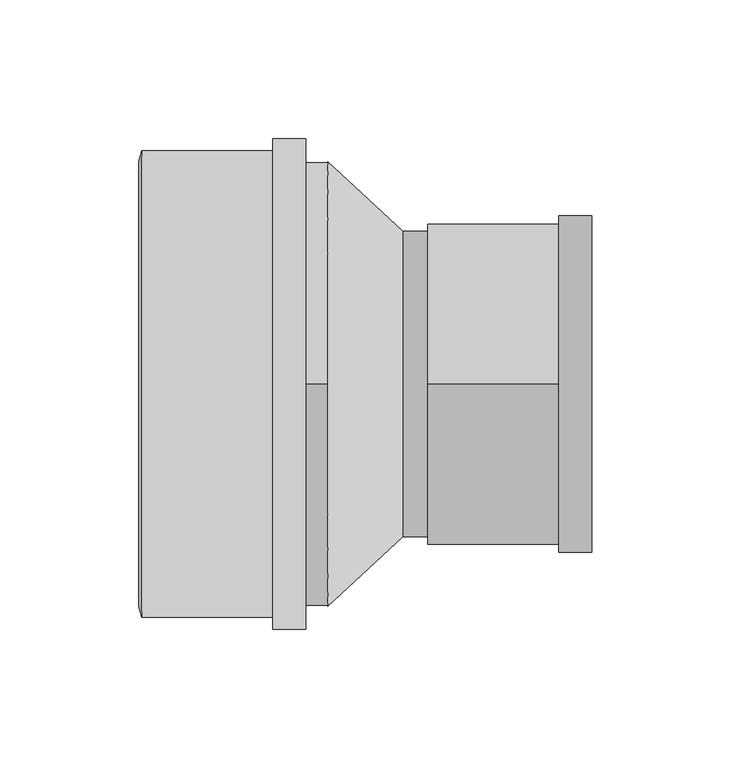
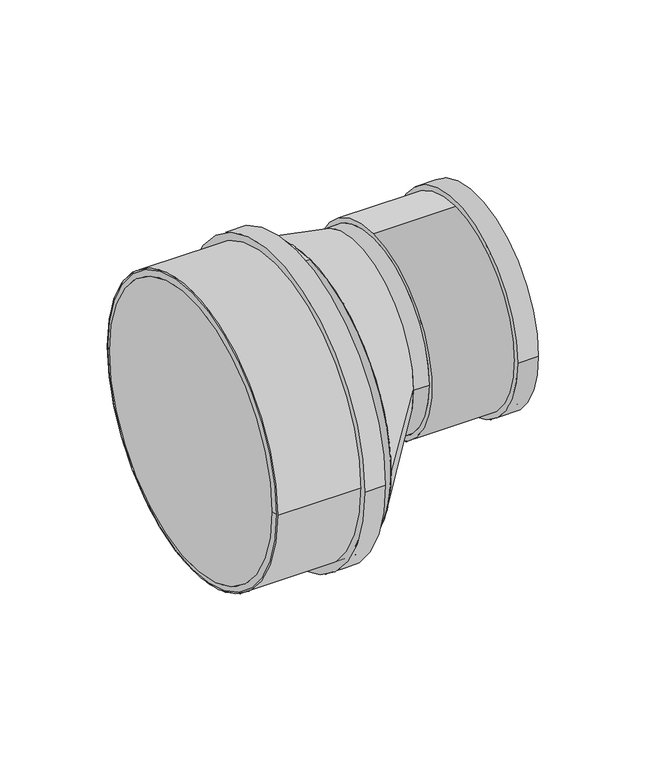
"""IFC4 building model written with IfcOpenShell, lengths in millimetres: pipe fitting geometry, Superdrain SKR-Reducer : Superdrain SKR-Reducer."""

from ifc_helpers import new_model, si_unit, point, frame, frame_2d, origin, origin_2d, place, context, project, spatial, polyline, circle_curve, trimmed, segment, composite_curve, outline, extrude, source, transform, mapped, element, save
from ifc_brep_helpers import plane_surface, revolved_surface, spline_surface, advanced_brep


def pipe_fitting_2cb091bc(model_context):
    return source(origin(), model_context, "Body", "SolidModel", [
        extrude(outline(composite_curve([segment(trimmed(circle_curve(frame_2d((0.0, 0.1450234)), 84.0), [point((84.0, 0.1450234))], [point((-84.0, 0.1450234))], False, "CARTESIAN"), True, "CONTINUOUS"), segment(trimmed(circle_curve(frame_2d((0.0, 0.1450234)), 84.0), [point((-84.0, 0.1450234))], [point((84.0, 0.1450234))], False, "CARTESIAN"), True, "CONTINUOUS")], self_intersect=False), holes=[composite_curve([segment(trimmed(circle_curve(frame_2d((0.0, 0.1450234)), 80.0), [point((80.0, 0.1450234))], [point((-80.0, 0.1450234))], True, "CARTESIAN"), True, "CONTINUOUS"), segment(trimmed(circle_curve(frame_2d((0.0, 0.1450234)), 80.0), [point((-80.0, 0.1450234))], [point((80.0, 0.1450234))], True, "CARTESIAN"), True, "CONTINUOUS")], self_intersect=False)]), frame((-67.0, 0.0, 0.0), z_axis=(1.0, 0.0, 0.0), x_axis=(0.0, 1.0, 0.0)), (0.0, 0.0, 1.0), 59.0),
        extrude(outline(composite_curve([segment(trimmed(circle_curve(frame_2d((0.0, 0.1450234)), 88.2), [point((88.2, 0.1450234))], [point((-88.2, 0.1450234))], False, "CARTESIAN"), True, "CONTINUOUS"), segment(trimmed(circle_curve(frame_2d((0.0, 0.1450234)), 88.2), [point((-88.2, 0.1450234))], [point((88.2, 0.1450234))], False, "CARTESIAN"), True, "CONTINUOUS")], self_intersect=False), holes=[composite_curve([segment(trimmed(circle_curve(frame_2d((0.0, 0.1450234)), 80.0), [point((80.0, 0.1450234))], [point((-80.0, 0.1450234))], True, "CARTESIAN"), True, "CONTINUOUS"), segment(trimmed(circle_curve(frame_2d((0.0, 0.1450234)), 80.0), [point((-80.0, 0.1450234))], [point((80.0, 0.1450234))], True, "CARTESIAN"), True, "CONTINUOUS")], self_intersect=False)]), frame((-19.8, 0.0, 0.0), z_axis=(1.0, 0.0, 0.0), x_axis=(0.0, 1.0, 0.0)), (0.0, 0.0, 1.0), 11.8),
        advanced_brep(
        [(-68.0, 80.0, 0.1450234), (-68.0, -80.0, 0.1450234), (-67.0, 84.0, 0.1450234), (-67.0, -84.0, 0.1450234)],
        [
            (0, 1, circle_curve(frame((-68.0, 0.0, 0.1450234), z_axis=(-1.0, 0.0, 0.0), x_axis=(0.0, 1.0, 0.0)), 80.0)),
            (1, 0, circle_curve(frame((-68.0, 0.0, 0.1450234), z_axis=(-1.0, 0.0, 0.0), x_axis=(0.0, -1.0, 0.0)), 80.0)),
            (2, 3, circle_curve(frame((-67.0, 0.0, 0.1450234), z_axis=(1.0, 0.0, 0.0), x_axis=(0.0, -1.0, 0.0)), 84.0)),
            (3, 2, circle_curve(frame((-67.0, 0.0, 0.1450234), z_axis=(1.0, 0.0, 0.0), x_axis=(0.0, 1.0, 0.0)), 84.0)),
            (3, 1),
            (0, 2),
        ],
        [
            plane_surface(frame((-68.0, 0.0, 0.1450234), z_axis=(-1.0, 0.0, 0.0), x_axis=(0.0, 0.0, -1.0))),
            plane_surface(frame((-67.0, 0.0, 0.1450234), z_axis=(1.0, 0.0, 0.0), x_axis=(0.0, 0.0, -1.0))),
            revolved_surface(polyline([(-68.0, 80.0, 0.1450234), (-67.0, 84.0, 0.1450234)]), (-88.0, 0.0, 0.1450234), (1.0, 0.0, 0.0)),
            revolved_surface(polyline([(-68.0, -80.0, 0.1450234), (-67.0, -84.0, 0.1450234)]), (-88.0, 0.0, 0.1450234), (1.0, 0.0, 0.0)),
        ],
        [
            (0, [[1, 2]]),
            (1, [[3, 4]]),
            (2, [[-4, 5, -1, 6]]),
            (3, [[-3, -6, -2, -5]]),
        ],
    ),
        advanced_brep(
        [(27.0, -55.0, 25.0), (27.0, 55.0, 25.0), (0.0, -80.0, 0.0), (0.0, 80.0, 0.0)],
        [
            (0, 1, circle_curve(frame((27.0, 0.0, 25.0), z_axis=(1.0, 0.0, 0.0), x_axis=(0.0, 1.0, 0.0)), 55.0)),
            (1, 0, circle_curve(frame((27.0, 0.0, 25.0), z_axis=(1.0, 0.0, 0.0), x_axis=(0.0, 1.0, 0.0)), 55.0)),
            (2, 3, circle_curve(frame((0.0, 0.0, 0.0), z_axis=(-1.0, 0.0, 0.0), x_axis=(0.0, 1.0, 0.0)), 80.0)),
            (3, 2, circle_curve(frame((0.0, 0.0, 0.0), z_axis=(-1.0, 0.0, 0.0), x_axis=(0.0, 1.0, 0.0)), 80.0)),
            (3, 1),
            (0, 2),
        ],
        [
            plane_surface(frame((27.0, 0.0, 25.0), z_axis=(1.0, 0.0, 0.0), x_axis=(0.0, 0.0, -1.0))),
            plane_surface(frame((0.0, 0.0, 0.0), z_axis=(-1.0, 0.0, 0.0), x_axis=(0.0, 0.0, -1.0))),
            spline_surface(2, 1, [[(0.0, -80.0, 0.0), (27.0, -55.0, 25.0)], [(0.0, -80.0, -80.0), (27.0, -55.0, -30.0)], [(0.0, 0.0, -80.0), (27.0, 0.0, -30.0)], [(0.0, 80.0, -80.0), (27.0, 55.0, -30.0)], [(0.0, 80.0, 0.0), (27.0, 55.0, 25.0)]], [3, 2, 3], [2, 2], [0.0, 1.0, 2.0], [0.0, 1.0], weights=[[1.0, 1.0], [0.7071067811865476, 0.7071067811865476], [1.0, 1.0], [0.7071067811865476, 0.7071067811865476], [1.0, 1.0]]),
            spline_surface(2, 1, [[(0.0, 80.0, 0.0), (27.0, 55.0, 25.0)], [(0.0, 80.0, 80.0), (27.0, 55.0, 80.0)], [(0.0, 0.0, 80.0), (27.0, 0.0, 80.0)], [(0.0, -80.0, 80.0), (27.0, -55.0, 80.0)], [(0.0, -80.0, 0.0), (27.0, -55.0, 25.0)]], [3, 2, 3], [2, 2], [0.0, 1.0, 2.0], [0.0, 1.0], weights=[[1.0, 1.0], [0.7071067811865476, 0.7071067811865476], [1.0, 1.0], [0.7071067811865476, 0.7071067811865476], [1.0, 1.0]]),
        ],
        [
            (0, [[1, 2]]),
            (1, [[3, 4]]),
            (2, [[-4, 5, -1, 6]]),
            (3, [[-3, -6, -2, -5]]),
        ],
    ),
        extrude(outline(composite_curve([segment(trimmed(circle_curve(frame_2d((0.0, 25.0)), 55.0), [point((-55.0, 25.0))], [point((55.0, 25.0))], False, "CARTESIAN"), True, "CONTINUOUS"), segment(trimmed(circle_curve(frame_2d((0.0, 25.0)), 55.0), [point((55.0, 25.0))], [point((-55.0, 25.0))], False, "CARTESIAN"), True, "CONTINUOUS")], self_intersect=False)), frame((27.0, 0.0, 0.0), z_axis=(1.0, 0.0, 0.0), x_axis=(0.0, 1.0, 0.0)), (0.0, 0.0, 1.0), 9.0),
        extrude(outline(composite_curve([segment(trimmed(circle_curve(frame_2d((0.0, 25.0)), 60.6375), [point((-60.6375, 25.0))], [point((60.6375, 25.0))], False, "CARTESIAN"), True, "CONTINUOUS"), segment(trimmed(circle_curve(frame_2d((0.0, 25.0)), 60.6375), [point((60.6375, 25.0))], [point((-60.6375, 25.0))], False, "CARTESIAN"), True, "CONTINUOUS")], self_intersect=False), holes=[composite_curve([segment(trimmed(circle_curve(frame_2d((0.0, 25.0)), 55.0), [point((55.0, 25.0))], [point((-55.0, 25.0))], True, "CARTESIAN"), True, "CONTINUOUS"), segment(trimmed(circle_curve(frame_2d((0.0, 25.0)), 55.0), [point((-55.0, 25.0))], [point((55.0, 25.0))], True, "CARTESIAN"), True, "CONTINUOUS")], self_intersect=False)]), frame((83.2, 0.0, 0.0), z_axis=(1.0, 0.0, 0.0), x_axis=(0.0, 1.0, 0.0)), (0.0, 0.0, 1.0), 11.8),
        extrude(outline(composite_curve([segment(trimmed(circle_curve(frame_2d((0.0, 25.0)), 57.75), [point((0.0, 82.75))], [point((0.0, -32.75))], False, "CARTESIAN"), True, "CONTINUOUS"), segment(trimmed(circle_curve(frame_2d((0.0, 25.0)), 57.75), [point((0.0, -32.75))], [point((0.0, 82.75))], False, "CARTESIAN"), True, "CONTINUOUS")], self_intersect=False), holes=[composite_curve([segment(trimmed(circle_curve(frame_2d((0.0, 25.0)), 55.0), [point((55.0, 25.0))], [point((-55.0, 25.0))], True, "CARTESIAN"), True, "CONTINUOUS"), segment(trimmed(circle_curve(frame_2d((0.0, 25.0)), 55.0), [point((-55.0, 25.0))], [point((55.0, 25.0))], True, "CARTESIAN"), True, "CONTINUOUS")], self_intersect=False)]), frame((36.0, 0.0, 0.0), z_axis=(1.0, 0.0, 0.0), x_axis=(0.0, 1.0, 0.0)), (0.0, 0.0, 1.0), 59.0),
        extrude(outline(composite_curve([segment(trimmed(circle_curve(origin_2d(), 80.0), [point((0.0, 80.0))], [point((0.0, -80.0))], False, "CARTESIAN"), True, "CONTINUOUS"), segment(trimmed(circle_curve(origin_2d(), 80.0), [point((0.0, -80.0))], [point((0.0, 80.0))], False, "CARTESIAN"), True, "CONTINUOUS")], self_intersect=False)), frame((-67.0, 0.0, 0.0), z_axis=(1.0, 0.0, 0.0), x_axis=(0.0, 1.0, 0.0)), (0.0, 0.0, 1.0), 67.0),
    ])


if __name__ == "__main__":
    model = new_model("IFC4")
    model_context = context("Model", 3, world=origin())
    ifc_project = project(units=[si_unit("LENGTHUNIT", "METRE", prefix="MILLI")], contexts=[model_context])
    site = spatial("IfcSite", under=ifc_project)
    building = spatial("IfcBuilding", under=site)
    placement = place(None, origin())
    pipe_fitting_shape = pipe_fitting_2cb091bc(model_context)
    element("IfcPipeFitting", 1, ObjectType="Superdrain SKR-Reducer : Superdrain SKR-Reducer", at=placement, inside=building, context=model_context, shape_type="MappedRepresentation", body=[
        mapped(pipe_fitting_shape, transform((0.0, 0.0, 0.0), x_axis=(1.0, 0.0, 0.0), y_axis=(0.0, 1.0, 0.0), z_axis=(0.0, 0.0, 1.0))),
    ])
    save(model, "model.ifc")
